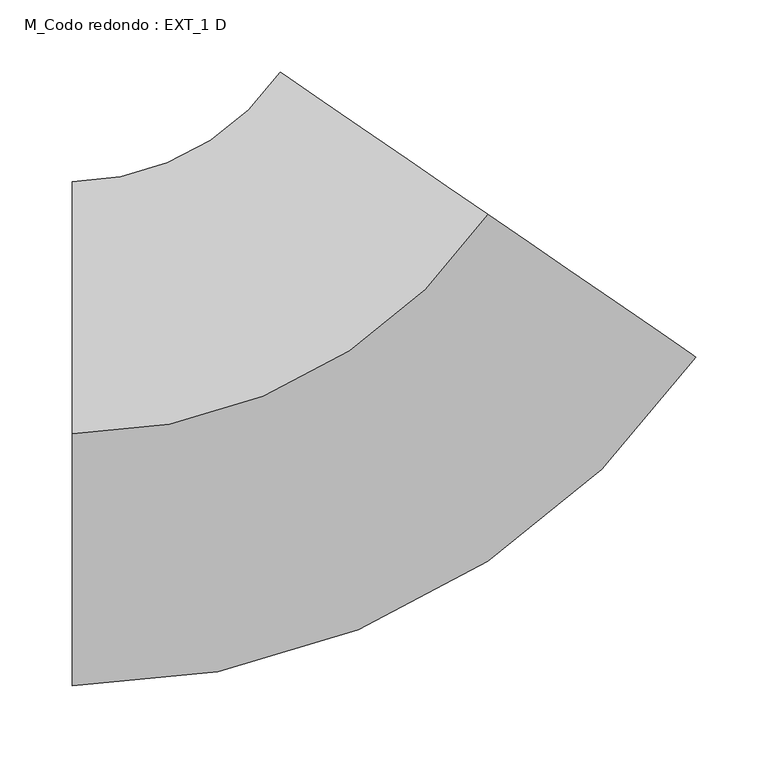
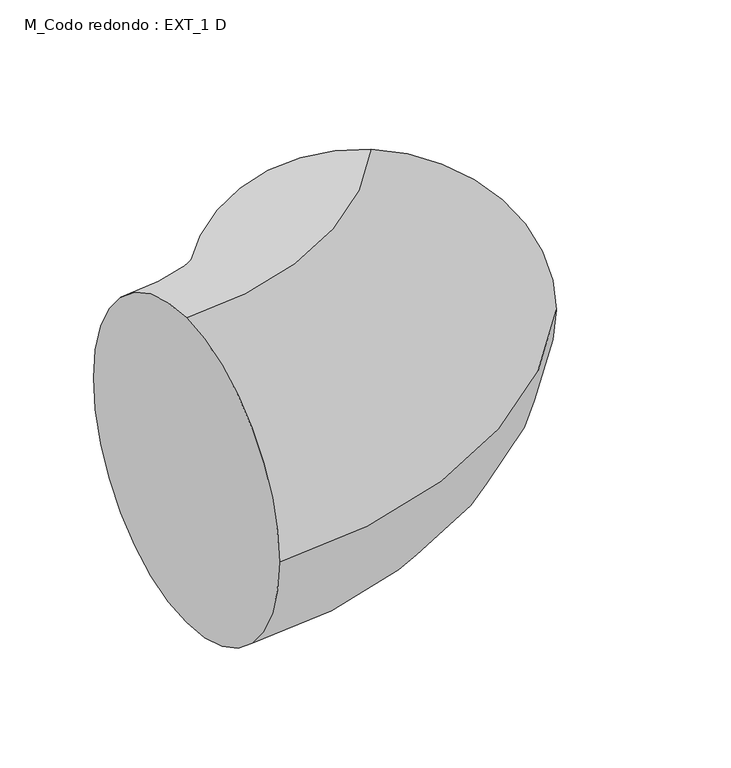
"""IFC4 building model written with IfcOpenShell, lengths in millimetres: duct fitting geometry, M_Codo redondo : EXT_1 D."""

from ifc_helpers import new_model, si_unit, point, frame, origin, place, context, project, spatial, circle_curve, ellipse_curve, trimmed, source, transform, mapped, element, save
from ifc_brep_helpers import plane_surface, revolved_surface, advanced_brep


def m_codo_redondo_ext_1_d_34d035f7(model_context):
    return source(origin(), model_context, "Body", "AdvancedBrep", [
        advanced_brep(
        [(-184.4884128, 0.0, 175.0), (-184.4884128, 175.0, 0.0), (-184.4884128, 0.0, -175.0), (-184.4884128, -175.0, 0.0), (104.2609389, 152.2025988, 175.0), (248.6356147, 53.3038982, 0.0), (104.2609389, 152.2025988, -175.0), (-40.113737, 251.1012994, 0.0)],
        [
            (0, 1, circle_curve(frame((-184.4884128, 0.0, 0.0), z_axis=(-1.0, 0.0, 0.0), x_axis=(0.0, 1.0, 0.0)), 175.0)),
            (1, 2, circle_curve(frame((-184.4884128, 0.0, 0.0), z_axis=(-1.0, 0.0, 0.0), x_axis=(0.0, 1.0, 0.0)), 175.0)),
            (2, 3, circle_curve(frame((-184.4884128, 0.0, 0.0), z_axis=(-1.0, 0.0, 0.0), x_axis=(0.0, 1.0, 0.0)), 175.0)),
            (3, 0, circle_curve(frame((-184.4884128, 0.0, 0.0), z_axis=(-1.0, 0.0, 0.0), x_axis=(0.0, 1.0, 0.0)), 175.0)),
            (4, 5, circle_curve(frame((104.2609389, 152.2025988, 0.0), z_axis=(0.5651354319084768, 0.8249981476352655, 0.0), x_axis=(-0.8249981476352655, 0.5651354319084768, 0.0)), 175.0)),
            (5, 6, circle_curve(frame((104.2609389, 152.2025988, 0.0), z_axis=(0.5651354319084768, 0.8249981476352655, 0.0), x_axis=(-0.8249981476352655, 0.5651354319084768, 0.0)), 175.0)),
            (6, 7, circle_curve(frame((104.2609389, 152.2025988, 0.0), z_axis=(0.5651354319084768, 0.8249981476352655, 0.0), x_axis=(-0.8249981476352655, 0.5651354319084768, 0.0)), 175.0)),
            (7, 4, circle_curve(frame((104.2609389, 152.2025988, 0.0), z_axis=(0.5651354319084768, 0.8249981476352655, 0.0), x_axis=(-0.8249981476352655, 0.5651354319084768, 0.0)), 175.0)),
            (7, 1, circle_curve(frame((-184.4884128, 350.0, 0.0), z_axis=(0.0, 0.0, -1.0), x_axis=(0.0, -1.0, 0.0)), 175.0)),
            (0, 4, circle_curve(frame((-184.4884128, 350.0, 175.0), z_axis=(0.0, 0.0, 1.0), x_axis=(0.0, -1.0, 0.0)), 350.0)),
            (6, 2, circle_curve(frame((-184.4884128, 350.0, -175.0), z_axis=(0.0, 0.0, -1.0), x_axis=(0.0, -1.0, 0.0)), 350.0)),
            (5, 3, circle_curve(frame((-184.4884128, 350.0, 0.0), z_axis=(0.0, 0.0, -1.0), x_axis=(0.0, -1.0, 0.0)), 525.0)),
        ],
        [
            plane_surface(frame((-184.4884128, 0.0, 0.0), z_axis=(-1.0, 0.0, 0.0), x_axis=(0.0, 0.0, 1.0))),
            plane_surface(frame((104.2609389, 152.2025988, 0.0), z_axis=(0.5651354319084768, 0.8249981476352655, 0.0), x_axis=(0.0, 0.0, 1.0))),
            revolved_surface(trimmed(ellipse_curve(frame((-184.4884128, 0.0, 0.0), z_axis=(-1.0, 0.0, 0.0), x_axis=(0.0, 1.0, 0.0)), 175.0, 175.0), [point((-184.4884128, 0.0, 175.0))], [point((-184.4884128, 175.0, 0.0))], True, "CARTESIAN"), (-184.4884128, 350.0, 0.0), (0.0, 0.0, 1.0)),
            revolved_surface(trimmed(ellipse_curve(frame((-184.4884128, 0.0, 0.0), z_axis=(-1.0, 0.0, 0.0), x_axis=(0.0, 1.0, 0.0)), 175.0, 175.0), [point((-184.4884128, 175.0, 0.0))], [point((-184.4884128, 0.0, -175.0))], True, "CARTESIAN"), (-184.4884128, 350.0, 0.0), (0.0, 0.0, 1.0)),
            revolved_surface(trimmed(ellipse_curve(frame((-184.4884128, 0.0, 0.0), z_axis=(-1.0, 0.0, 0.0), x_axis=(0.0, 1.0, 0.0)), 175.0, 175.0), [point((-184.4884128, 0.0, -175.0))], [point((-184.4884128, -175.0, 0.0))], True, "CARTESIAN"), (-184.4884128, 350.0, 0.0), (0.0, 0.0, 1.0)),
            revolved_surface(trimmed(ellipse_curve(frame((-184.4884128, 0.0, 0.0), z_axis=(-1.0, 0.0, 0.0), x_axis=(0.0, 1.0, 0.0)), 175.0, 175.0), [point((-184.4884128, -175.0, 0.0))], [point((-184.4884128, 0.0, 175.0))], True, "CARTESIAN"), (-184.4884128, 350.0, 0.0), (0.0, 0.0, 1.0)),
        ],
        [
            (0, [[1, 2, 3, 4]]),
            (1, [[5, 6, 7, 8]]),
            (2, [[9, -1, 10, -8]]),
            (3, [[11, -2, -9, -7]]),
            (4, [[12, -3, -11, -6]]),
            (5, [[-10, -4, -12, -5]]),
        ],
    ),
    ])


if __name__ == "__main__":
    model = new_model("IFC4")
    model_context = context("Model", 3, world=origin())
    ifc_project = project(units=[si_unit("LENGTHUNIT", "METRE", prefix="MILLI")], contexts=[model_context])
    site = spatial("IfcSite", under=ifc_project)
    building = spatial("IfcBuilding", under=site)
    placement = place(None, origin())
    m_codo_redondo_ext_1_d_shape = m_codo_redondo_ext_1_d_34d035f7(model_context)
    element("IfcDuctFitting", 1, ObjectType="M_Codo redondo : EXT_1 D", at=placement, inside=building, context=model_context, shape_type="MappedRepresentation", body=[
        mapped(m_codo_redondo_ext_1_d_shape, transform((0.0, 0.0, 0.0), x_axis=(1.0, 0.0, 0.0), y_axis=(0.0, 1.0, 0.0), z_axis=(0.0, 0.0, 1.0))),
    ])
    save(model, "model.ifc")
